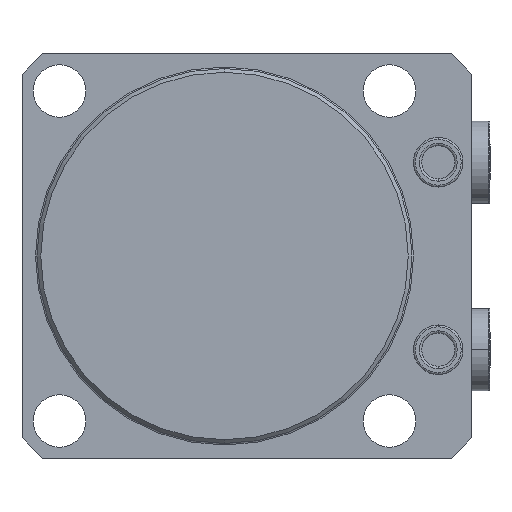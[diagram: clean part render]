
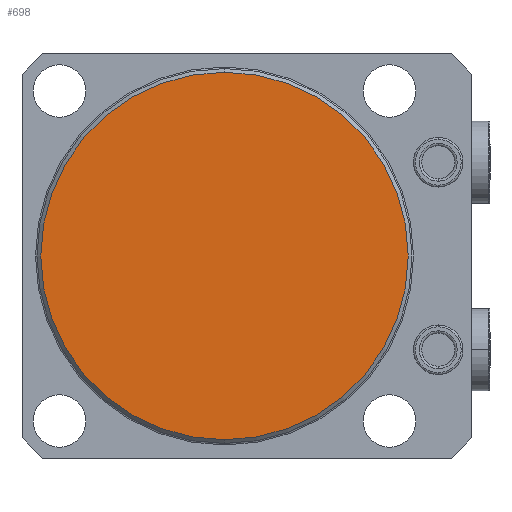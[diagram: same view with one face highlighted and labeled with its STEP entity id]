
A CAD part, front view. The second image highlights one B-rep face of the part: STEP entity #698.
In plain terms, the highlighted planar face has unit normal (0, -1, 0) as drawn and (0, 1, 0) by its records, which use the part's own axes.
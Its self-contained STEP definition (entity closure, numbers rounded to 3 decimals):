
#246=PLANE('',#4987);
#698=ADVANCED_FACE('',(#963),#246,.T.);
#963=FACE_OUTER_BOUND('',#1249,.F.);
#1249=EDGE_LOOP('',(#2912,#2913));
#2912=ORIENTED_EDGE('',*,*,#4161,.T.);
#2913=ORIENTED_EDGE('',*,*,#4043,.T.);
#3487=VERTEX_POINT('',#7562);
#3488=VERTEX_POINT('',#7563);
#4043=EDGE_CURVE('',#3487,#3488,#4460,.T.);
#4161=EDGE_CURVE('',#3488,#3487,#4484,.T.);
#4460=CIRCLE('',#4939,49.);
#4484=CIRCLE('',#4986,49.);
#4939=AXIS2_PLACEMENT_3D('',#7561,#6138,#6139);
#4986=AXIS2_PLACEMENT_3D('',#7911,#6296,#6297);
#4987=AXIS2_PLACEMENT_3D('',#7912,#6298,#6299);
#6138=DIRECTION('',(0.,-1.,0.));
#6139=DIRECTION('',(0.,0.,1.));
#6296=DIRECTION('',(0.,-1.,0.));
#6297=DIRECTION('',(0.,0.,1.));
#6298=DIRECTION('',(0.,1.,0.));
#6299=DIRECTION('',(0.,0.,1.));
#7561=CARTESIAN_POINT('',(0.,-65.,0.));
#7562=CARTESIAN_POINT('',(0.,-65.,-49.));
#7563=CARTESIAN_POINT('',(0.,-65.,49.));
#7911=CARTESIAN_POINT('',(0.,-65.,0.));
#7912=CARTESIAN_POINT('',(0.,-65.,0.));
